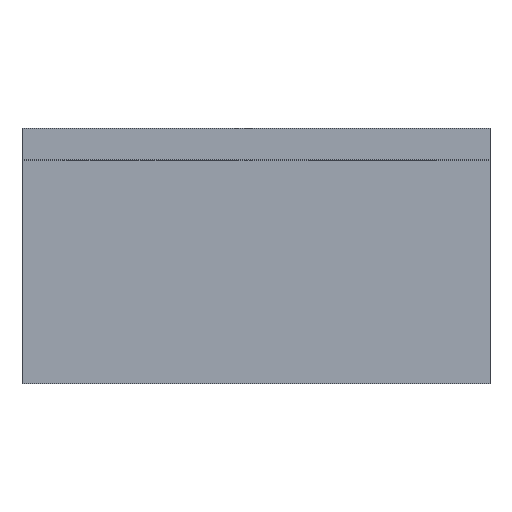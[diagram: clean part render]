
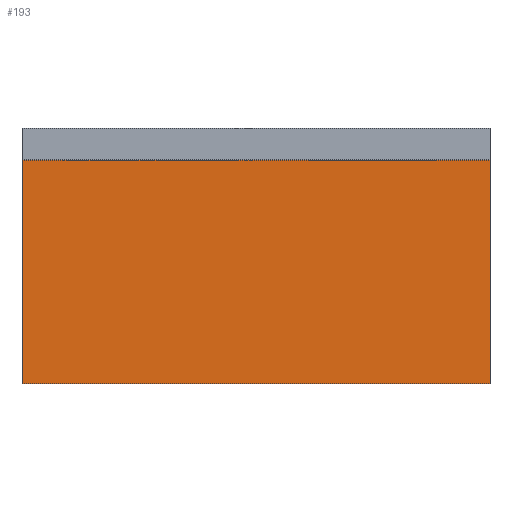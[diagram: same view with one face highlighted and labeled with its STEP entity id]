
A CAD part, top view. The second image highlights one B-rep face of the part: STEP entity #193.
In plain terms, the highlighted planar face has unit normal (0, 0, 1).
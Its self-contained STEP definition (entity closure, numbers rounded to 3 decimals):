
#21 = EDGE_CURVE('',#22,#24,#26,.T.);
#22 = VERTEX_POINT('',#23);
#23 = CARTESIAN_POINT('',(-22.,-12.,3.));
#24 = VERTEX_POINT('',#25);
#25 = CARTESIAN_POINT('',(-22.,9.,3.));
#26 = SURFACE_CURVE('',#27,(#31,#43),.PCURVE_S1.);
#27 = LINE('',#28,#29);
#28 = CARTESIAN_POINT('',(-22.,-12.,3.));
#29 = VECTOR('',#30,1.);
#30 = DIRECTION('',(0.,1.,0.));
#31 = PCURVE('',#32,#37);
#32 = PLANE('',#33);
#33 = AXIS2_PLACEMENT_3D('',#34,#35,#36);
#34 = CARTESIAN_POINT('',(-22.,-12.,0.));
#35 = DIRECTION('',(1.,0.,0.));
#36 = DIRECTION('',(0.,0.,1.));
#37 = DEFINITIONAL_REPRESENTATION('',(#38),#42);
#38 = LINE('',#39,#40);
#39 = CARTESIAN_POINT('',(3.,0.));
#40 = VECTOR('',#41,1.);
#41 = DIRECTION('',(0.,-1.));
#42 = ( GEOMETRIC_REPRESENTATION_CONTEXT(2) 
PARAMETRIC_REPRESENTATION_CONTEXT() REPRESENTATION_CONTEXT('2D SPACE',''
  ) );
#43 = PCURVE('',#44,#49);
#44 = PLANE('',#45);
#45 = AXIS2_PLACEMENT_3D('',#46,#47,#48);
#46 = CARTESIAN_POINT('',(-22.,-12.,3.));
#47 = DIRECTION('',(0.,0.,1.));
#48 = DIRECTION('',(1.,0.,0.));
#49 = DEFINITIONAL_REPRESENTATION('',(#50),#54);
#50 = LINE('',#51,#52);
#51 = CARTESIAN_POINT('',(0.,0.));
#52 = VECTOR('',#53,1.);
#53 = DIRECTION('',(0.,1.));
#54 = ( GEOMETRIC_REPRESENTATION_CONTEXT(2) 
PARAMETRIC_REPRESENTATION_CONTEXT() REPRESENTATION_CONTEXT('2D SPACE',''
  ) );
#72 = PLANE('',#73);
#73 = AXIS2_PLACEMENT_3D('',#74,#75,#76);
#74 = CARTESIAN_POINT('',(-22.,-12.,0.));
#75 = DIRECTION('',(0.,1.,0.));
#76 = DIRECTION('',(0.,0.,1.));
#182 = PLANE('',#183);
#183 = AXIS2_PLACEMENT_3D('',#184,#185,#186);
#184 = CARTESIAN_POINT('',(-22.,9.,0.));
#185 = DIRECTION('',(0.,1.,0.));
#186 = DIRECTION('',(0.,0.,1.));
#193 = ADVANCED_FACE('',(#194),#44,.T.);
#194 = FACE_BOUND('',#195,.T.);
#195 = EDGE_LOOP('',(#196,#197,#220,#248));
#196 = ORIENTED_EDGE('',*,*,#21,.F.);
#197 = ORIENTED_EDGE('',*,*,#198,.T.);
#198 = EDGE_CURVE('',#22,#199,#201,.T.);
#199 = VERTEX_POINT('',#200);
#200 = CARTESIAN_POINT('',(22.,-12.,3.));
#201 = SURFACE_CURVE('',#202,(#206,#213),.PCURVE_S1.);
#202 = LINE('',#203,#204);
#203 = CARTESIAN_POINT('',(-22.,-12.,3.));
#204 = VECTOR('',#205,1.);
#205 = DIRECTION('',(1.,0.,0.));
#206 = PCURVE('',#44,#207);
#207 = DEFINITIONAL_REPRESENTATION('',(#208),#212);
#208 = LINE('',#209,#210);
#209 = CARTESIAN_POINT('',(0.,0.));
#210 = VECTOR('',#211,1.);
#211 = DIRECTION('',(1.,0.));
#212 = ( GEOMETRIC_REPRESENTATION_CONTEXT(2) 
PARAMETRIC_REPRESENTATION_CONTEXT() REPRESENTATION_CONTEXT('2D SPACE',''
  ) );
#213 = PCURVE('',#72,#214);
#214 = DEFINITIONAL_REPRESENTATION('',(#215),#219);
#215 = LINE('',#216,#217);
#216 = CARTESIAN_POINT('',(3.,0.));
#217 = VECTOR('',#218,1.);
#218 = DIRECTION('',(0.,1.));
#219 = ( GEOMETRIC_REPRESENTATION_CONTEXT(2) 
PARAMETRIC_REPRESENTATION_CONTEXT() REPRESENTATION_CONTEXT('2D SPACE',''
  ) );
#220 = ORIENTED_EDGE('',*,*,#221,.T.);
#221 = EDGE_CURVE('',#199,#222,#224,.T.);
#222 = VERTEX_POINT('',#223);
#223 = CARTESIAN_POINT('',(22.,9.,3.));
#224 = SURFACE_CURVE('',#225,(#229,#236),.PCURVE_S1.);
#225 = LINE('',#226,#227);
#226 = CARTESIAN_POINT('',(22.,-12.,3.));
#227 = VECTOR('',#228,1.);
#228 = DIRECTION('',(0.,1.,0.));
#229 = PCURVE('',#44,#230);
#230 = DEFINITIONAL_REPRESENTATION('',(#231),#235);
#231 = LINE('',#232,#233);
#232 = CARTESIAN_POINT('',(44.,0.));
#233 = VECTOR('',#234,1.);
#234 = DIRECTION('',(0.,1.));
#235 = ( GEOMETRIC_REPRESENTATION_CONTEXT(2) 
PARAMETRIC_REPRESENTATION_CONTEXT() REPRESENTATION_CONTEXT('2D SPACE',''
  ) );
#236 = PCURVE('',#237,#242);
#237 = PLANE('',#238);
#238 = AXIS2_PLACEMENT_3D('',#239,#240,#241);
#239 = CARTESIAN_POINT('',(22.,-12.,0.));
#240 = DIRECTION('',(1.,0.,0.));
#241 = DIRECTION('',(0.,0.,1.));
#242 = DEFINITIONAL_REPRESENTATION('',(#243),#247);
#243 = LINE('',#244,#245);
#244 = CARTESIAN_POINT('',(3.,0.));
#245 = VECTOR('',#246,1.);
#246 = DIRECTION('',(0.,-1.));
#247 = ( GEOMETRIC_REPRESENTATION_CONTEXT(2) 
PARAMETRIC_REPRESENTATION_CONTEXT() REPRESENTATION_CONTEXT('2D SPACE',''
  ) );
#248 = ORIENTED_EDGE('',*,*,#249,.T.);
#249 = EDGE_CURVE('',#222,#24,#250,.T.);
#250 = SURFACE_CURVE('',#251,(#255,#261),.PCURVE_S1.);
#251 = LINE('',#252,#253);
#252 = CARTESIAN_POINT('',(-22.,9.,3.));
#253 = VECTOR('',#254,1.);
#254 = DIRECTION('',(-1.,0.,0.));
#255 = PCURVE('',#44,#256);
#256 = DEFINITIONAL_REPRESENTATION('',(#257),#260);
#257 = B_SPLINE_CURVE_WITH_KNOTS('',1,(#258,#259),.UNSPECIFIED.,.F.,.F.,
  (2,2),(-44.,0.),.PIECEWISE_BEZIER_KNOTS.);
#258 = CARTESIAN_POINT('',(44.,21.));
#259 = CARTESIAN_POINT('',(0.,21.));
#260 = ( GEOMETRIC_REPRESENTATION_CONTEXT(2) 
PARAMETRIC_REPRESENTATION_CONTEXT() REPRESENTATION_CONTEXT('2D SPACE',''
  ) );
#261 = PCURVE('',#182,#262);
#262 = DEFINITIONAL_REPRESENTATION('',(#263),#266);
#263 = B_SPLINE_CURVE_WITH_KNOTS('',1,(#264,#265),.UNSPECIFIED.,.F.,.F.,
  (2,2),(-44.,0.),.PIECEWISE_BEZIER_KNOTS.);
#264 = CARTESIAN_POINT('',(3.,44.));
#265 = CARTESIAN_POINT('',(3.,0.));
#266 = ( GEOMETRIC_REPRESENTATION_CONTEXT(2) 
PARAMETRIC_REPRESENTATION_CONTEXT() REPRESENTATION_CONTEXT('2D SPACE',''
  ) );
